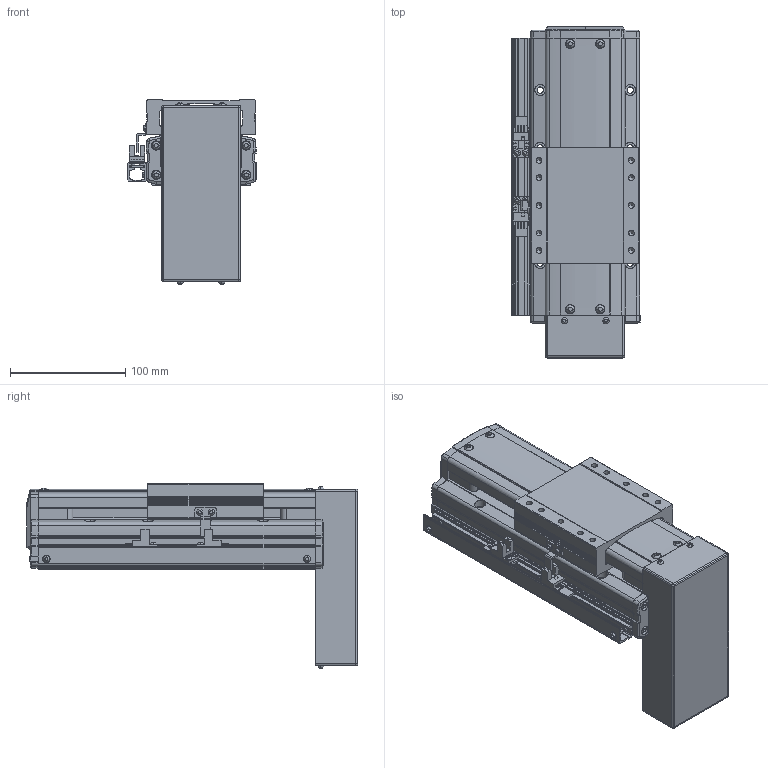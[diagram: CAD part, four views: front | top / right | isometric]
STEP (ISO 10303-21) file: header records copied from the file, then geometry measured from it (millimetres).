
FILE_DESCRIPTION(('STEP AP214'),'1');
FILE_NAME('Z:/Web/3D/PSA95/STP/PSA95-050 (3D)/PSA95ㅁㅁ-050PB+2SL.stp','2014-07-02T23:37:45',(' '),(' '),'Spatial InterOp 3D',' ',' ');
FILE_SCHEMA(('automotive_design'));
Length unit declared in the file: millimetre
Products named in the file (43): BASE; RRCV; 스크루 : Round - M4.0 x 10.0; 너트 : Square - M10.0 x 220.7419; RR1500; FRCV-090; 스크루 : Round - M4.0 x 6.0; SLBL-PA90; MTPL COVER; 스크루 : Round - M3.0 x 6.0; 1; 2; EE-SX674; SBK-SX674-352; M3.0 x 6.0; SRL-16x17-380L; SGD-PA95; 스크루 : Round - M3.0 x 8.0
Bounding box: 111.1 x 287.5 x 159.57 mm (x, y, z)
Volume: 1849990.8 mm3; surface area: 265566.5 mm2
Topology: 43 solids, 43 shells, 2243 faces, 5955 edges, 3854 vertices
Faces by surface type: plane 1384, cylinder 583, cone 172, sphere 66, bspline 24, torus 14
Entity records: 90266 total; most frequent: CARTESIAN_POINT 15036, DIRECTION 11904, ORIENTED_EDGE 11762, EDGE_CURVE 5881, LINE 4088, VECTOR 4088, AXIS2_PLACEMENT_3D 3908, VERTEX_POINT 3854
